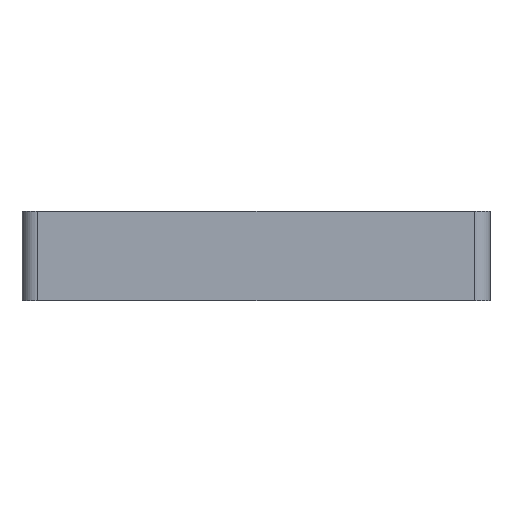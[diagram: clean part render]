
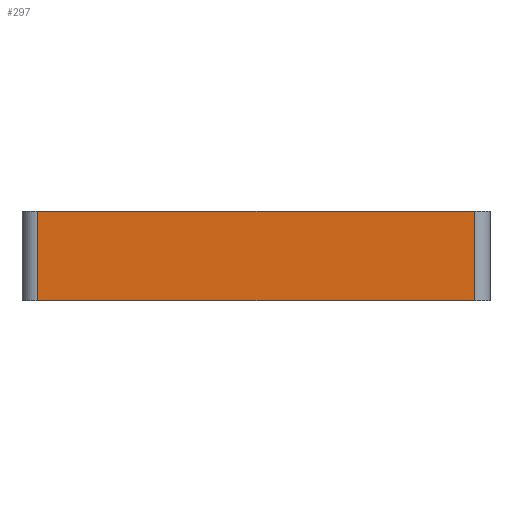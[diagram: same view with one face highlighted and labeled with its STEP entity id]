
A CAD part, left-side view. The second image highlights one B-rep face of the part: STEP entity #297.
In plain terms, the highlighted planar face has unit normal (-1, 0, 0).
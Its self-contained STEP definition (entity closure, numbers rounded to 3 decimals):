
#105 = VERTEX_POINT ( 'NONE', #1395 ) ;
#112 = CARTESIAN_POINT ( 'NONE',  ( -25.27, 39.007, 11.5 ) ) ;
#121 = VERTEX_POINT ( 'NONE', #320 ) ;
#136 = DIRECTION ( 'NONE',  ( 0., 0., 1. ) ) ;
#187 = LINE ( 'NONE', #1555, #1424 ) ;
#220 = LINE ( 'NONE', #712, #1467 ) ;
#235 = PLANE ( 'NONE',  #1391 ) ;
#276 = VERTEX_POINT ( 'NONE', #1548 ) ;
#297 = ADVANCED_FACE ( 'NONE', ( #737 ), #235, .F. ) ;
#305 = LINE ( 'NONE', #1218, #417 ) ;
#320 = CARTESIAN_POINT ( 'NONE',  ( -25.27, 37.007, 11.5 ) ) ;
#332 = ORIENTED_EDGE ( 'NONE', *, *, #400, .T. ) ;
#354 = CARTESIAN_POINT ( 'NONE',  ( -25.27, -18.993, 11.5 ) ) ;
#400 = EDGE_CURVE ( 'NONE', #105, #276, #659, .T. ) ;
#412 = EDGE_CURVE ( 'NONE', #276, #925, #305, .T. ) ;
#417 = VECTOR ( 'NONE', #136, 1000. ) ;
#447 = EDGE_CURVE ( 'NONE', #121, #925, #220, .T. ) ;
#482 = EDGE_CURVE ( 'NONE', #121, #105, #187, .T. ) ;
#587 = DIRECTION ( 'NONE',  ( 1., 0., 0. ) ) ;
#659 = LINE ( 'NONE', #855, #1259 ) ;
#712 = CARTESIAN_POINT ( 'NONE',  ( -25.27, 39.007, 11.5 ) ) ;
#737 = FACE_OUTER_BOUND ( 'NONE', #972, .T. ) ;
#792 = ORIENTED_EDGE ( 'NONE', *, *, #447, .F. ) ;
#855 = CARTESIAN_POINT ( 'NONE',  ( -25.27, 39.007, 0. ) ) ;
#925 = VERTEX_POINT ( 'NONE', #354 ) ;
#972 = EDGE_LOOP ( 'NONE', ( #332, #1023, #792, #1194 ) ) ;
#982 = DIRECTION ( 'NONE',  ( 0., -1., 0. ) ) ;
#1023 = ORIENTED_EDGE ( 'NONE', *, *, #412, .T. ) ;
#1072 = DIRECTION ( 'NONE',  ( 0., -1., 0. ) ) ;
#1074 = DIRECTION ( 'NONE',  ( 0., 1., 0. ) ) ;
#1194 = ORIENTED_EDGE ( 'NONE', *, *, #482, .T. ) ;
#1218 = CARTESIAN_POINT ( 'NONE',  ( -25.27, -18.993, 11.5 ) ) ;
#1259 = VECTOR ( 'NONE', #982, 1000. ) ;
#1315 = DIRECTION ( 'NONE',  ( 0., 0., -1. ) ) ;
#1391 = AXIS2_PLACEMENT_3D ( 'NONE', #112, #587, #1074 ) ;
#1395 = CARTESIAN_POINT ( 'NONE',  ( -25.27, 37.007, 0. ) ) ;
#1424 = VECTOR ( 'NONE', #1315, 1000. ) ;
#1467 = VECTOR ( 'NONE', #1072, 1000. ) ;
#1548 = CARTESIAN_POINT ( 'NONE',  ( -25.27, -18.993, 0. ) ) ;
#1555 = CARTESIAN_POINT ( 'NONE',  ( -25.27, 37.007, 11.5 ) ) ;
